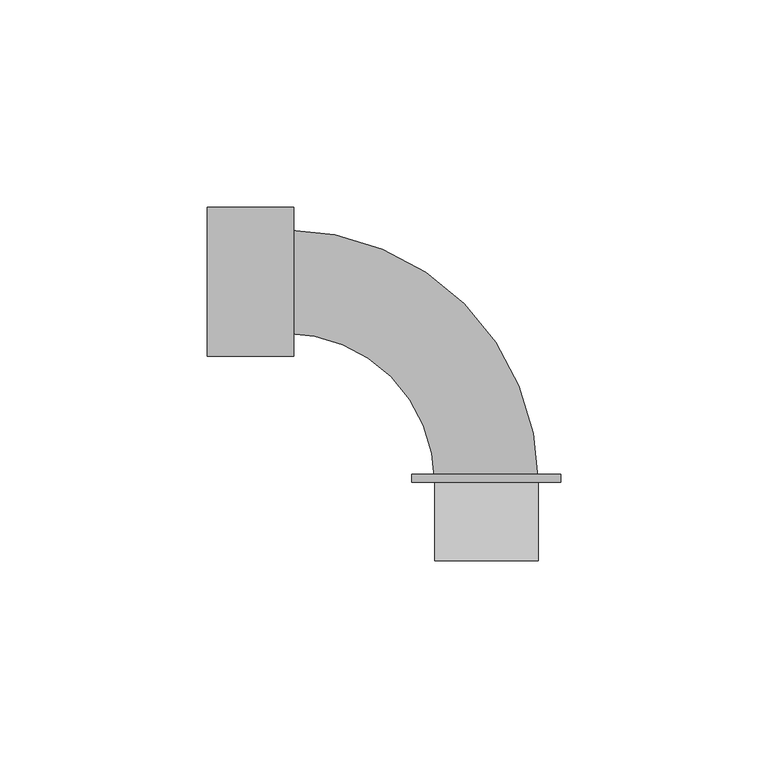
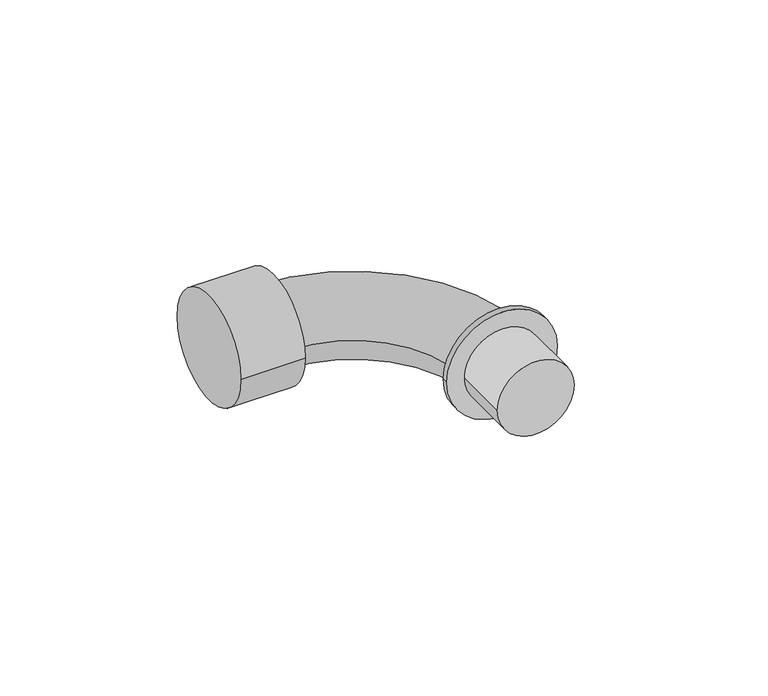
"""IFC4 building model written with IfcOpenShell, lengths in millimetres: pipe fitting geometry, 01051160 : Courbes à 90º MxF."""

from ifc_helpers import new_model, si_unit, point, frame, origin, origin_2d, place, context, project, spatial, circle_curve, ellipse_curve, trimmed, segment, composite_curve, outline, extrude, source, transform, mapped, element, save
from ifc_brep_helpers import plane_surface, revolved_surface, advanced_brep


def pipe_fitting_0589a282(model_context):
    return source(origin(), model_context, "Body", "SolidModel", [
        extrude(outline(composite_curve([segment(trimmed(circle_curve(origin_2d(), 18.0), [point((0.0, -18.0))], [point((0.0, 18.0))], False, "CARTESIAN"), True, "CONTINUOUS"), segment(trimmed(circle_curve(origin_2d(), 18.0), [point((0.0, 18.0))], [point((0.0, -18.0))], False, "CARTESIAN"), True, "CONTINUOUS")], self_intersect=False)), frame((0.0, -48.5, 0.0), z_axis=(0.0, 1.0, 0.0), x_axis=(0.0, 0.0, 1.0)), (0.0, 0.0, 1.0), 2.0),
        extrude(outline(composite_curve([segment(trimmed(circle_curve(origin_2d(), 18.0), [point((18.0, 0.0))], [point((-18.0, 0.0))], False, "CARTESIAN"), True, "CONTINUOUS"), segment(trimmed(circle_curve(origin_2d(), 18.0), [point((-18.0, 0.0))], [point((18.0, 0.0))], False, "CARTESIAN"), True, "CONTINUOUS")], self_intersect=False)), frame((-67.5, 0.0, 0.0), z_axis=(1.0, 0.0, 0.0), x_axis=(0.0, 1.0, 0.0)), (0.0, 0.0, 1.0), 21.0),
        extrude(outline(composite_curve([segment(trimmed(circle_curve(origin_2d(), 12.5), [point((0.0, -12.5))], [point((0.0, 12.5))], False, "CARTESIAN"), True, "CONTINUOUS"), segment(trimmed(circle_curve(origin_2d(), 12.5), [point((0.0, 12.5))], [point((0.0, -12.5))], False, "CARTESIAN"), True, "CONTINUOUS")], self_intersect=False)), frame((0.0, -67.5, 0.0), z_axis=(0.0, 1.0, 0.0), x_axis=(0.0, 0.0, 1.0)), (0.0, 0.0, 1.0), 19.0),
        advanced_brep(
        [(-12.5, -48.5, 0.0), (12.5, -48.5, 0.0), (-48.5, -12.5, 0.0), (-48.5, 12.5, 0.0)],
        [
            (0, 1, circle_curve(frame((0.0, -48.5, 0.0), z_axis=(0.0, -1.0, 0.0), x_axis=(1.0, 0.0, 0.0)), 12.5)),
            (1, 0, circle_curve(frame((0.0, -48.5, 0.0), z_axis=(0.0, -1.0, 0.0), x_axis=(1.0, 0.0, 0.0)), 12.5)),
            (2, 3, circle_curve(frame((-48.5, 0.0, 0.0), z_axis=(-1.0, 0.0, 0.0), x_axis=(0.0, 1.0, 0.0)), 12.5)),
            (3, 2, circle_curve(frame((-48.5, 0.0, 0.0), z_axis=(-1.0, 0.0, 0.0), x_axis=(0.0, 1.0, 0.0)), 12.5)),
            (2, 0, circle_curve(frame((-48.5, -48.5, 0.0), z_axis=(0.0, 0.0, -1.0), x_axis=(1.0, 0.0, 0.0)), 36.0)),
            (1, 3, circle_curve(frame((-48.5, -48.5, 0.0), z_axis=(0.0, 0.0, 1.0), x_axis=(1.0, 0.0, 0.0)), 61.0)),
        ],
        [
            plane_surface(frame((0.0, -48.5, 0.0), z_axis=(0.0, -1.0, 0.0), x_axis=(0.0, 0.0, 1.0))),
            plane_surface(frame((-48.5, 0.0, 0.0), z_axis=(-1.0, 0.0, 0.0), x_axis=(0.0, 0.0, 1.0))),
            revolved_surface(trimmed(ellipse_curve(frame((0.0, -48.5, 0.0), z_axis=(0.0, 1.0, 0.0), x_axis=(1.0, 0.0, 0.0)), 12.5, 12.5), [point((-12.5, -48.5, 0.0))], [point((12.5, -48.5, 0.0))], True, "CARTESIAN"), (-48.5, -48.5, 0.0), (0.0, 0.0, -1.0)),
            revolved_surface(trimmed(ellipse_curve(frame((0.0, -48.5, 0.0), z_axis=(0.0, 1.0, 0.0), x_axis=(1.0, 0.0, 0.0)), 12.5, 12.5), [point((12.5, -48.5, 0.0))], [point((-12.5, -48.5, 0.0))], True, "CARTESIAN"), (-48.5, -48.5, 0.0), (0.0, 0.0, -1.0)),
        ],
        [
            (0, [[1, 2]]),
            (1, [[3, 4]]),
            (2, [[-3, 5, -2, 6]]),
            (3, [[-4, -6, -1, -5]]),
        ],
    ),
    ])


if __name__ == "__main__":
    model = new_model("IFC4")
    model_context = context("Model", 3, world=origin())
    ifc_project = project(units=[si_unit("LENGTHUNIT", "METRE", prefix="MILLI")], contexts=[model_context])
    site = spatial("IfcSite", under=ifc_project)
    building = spatial("IfcBuilding", under=site)
    placement = place(None, origin())
    pipe_fitting_shape = pipe_fitting_0589a282(model_context)
    element("IfcPipeFitting", 1, ObjectType="01051160 : Courbes à 90º MxF", at=placement, inside=building, context=model_context, shape_type="MappedRepresentation", body=[
        mapped(pipe_fitting_shape, transform((0.0, 0.0, 0.0), x_axis=(1.0, 0.0, 0.0), y_axis=(0.0, 1.0, 0.0), z_axis=(0.0, 0.0, 1.0))),
    ])
    save(model, "model.ifc")
